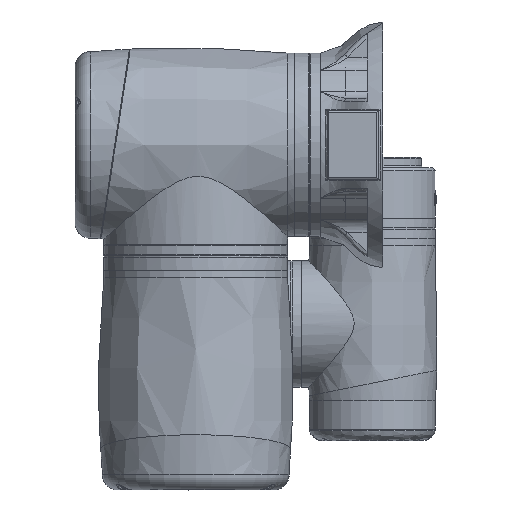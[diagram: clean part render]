
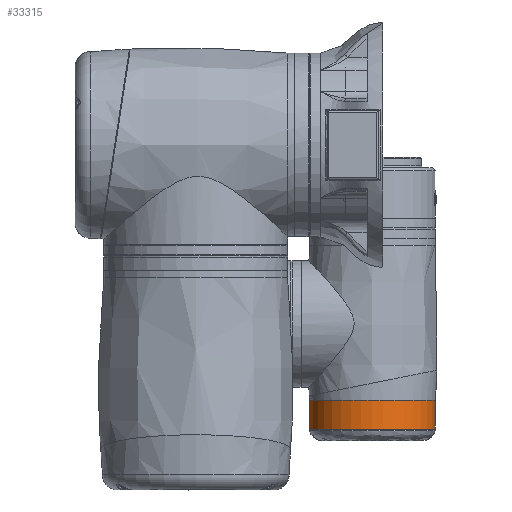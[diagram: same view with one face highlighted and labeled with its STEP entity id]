
A CAD part, left-side view. The second image highlights one B-rep face of the part: STEP entity #33315.
In plain terms, the highlighted cylindrical face has radius 40.5 mm (diameter 81 mm), a full revolution.
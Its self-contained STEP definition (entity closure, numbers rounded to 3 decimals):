
#3488 = CYLINDRICAL_SURFACE ( 'NONE', #27446, 40.5 ) ;
#3798 = EDGE_CURVE ( 'NONE', #79795, #79795, #89423, .T. ) ;
#8227 = DIRECTION ( 'NONE',  ( 0., -1., 0. ) ) ;
#12833 = VERTEX_POINT ( 'NONE', #90379 ) ;
#13155 = AXIS2_PLACEMENT_3D ( 'NONE', #37309, #37005, #87906 ) ;
#14070 = EDGE_LOOP ( 'NONE', ( #89702 ) ) ;
#27446 = AXIS2_PLACEMENT_3D ( 'NONE', #71415, #57199, #63188 ) ;
#33315 = ADVANCED_FACE ( 'NONE', ( #47658, #70233 ), #3488, .T. ) ;
#36178 = EDGE_LOOP ( 'NONE', ( #76250 ) ) ;
#37005 = DIRECTION ( 'NONE',  ( 0., -1., 0. ) ) ;
#37309 = CARTESIAN_POINT ( 'NONE',  ( 0., 135.5, 0. ) ) ;
#39434 = AXIS2_PLACEMENT_3D ( 'NONE', #44633, #8227, #52222 ) ;
#44633 = CARTESIAN_POINT ( 'NONE',  ( 0., 117., 0. ) ) ;
#47658 = FACE_OUTER_BOUND ( 'NONE', #14070, .T. ) ;
#52222 = DIRECTION ( 'NONE',  ( -1., 0., 0. ) ) ;
#57199 = DIRECTION ( 'NONE',  ( 0., -1., 0. ) ) ;
#62699 = EDGE_CURVE ( 'NONE', #12833, #12833, #76679, .T. ) ;
#63188 = DIRECTION ( 'NONE',  ( -1., 0., 0. ) ) ;
#65164 = CARTESIAN_POINT ( 'NONE',  ( 0., 135.5, 40.5 ) ) ;
#70233 = FACE_OUTER_BOUND ( 'NONE', #36178, .T. ) ;
#71415 = CARTESIAN_POINT ( 'NONE',  ( 0., 8.5, 0. ) ) ;
#76250 = ORIENTED_EDGE ( 'NONE', *, *, #62699, .F. ) ;
#76679 = CIRCLE ( 'NONE', #39434, 40.5 ) ;
#79795 = VERTEX_POINT ( 'NONE', #65164 ) ;
#87906 = DIRECTION ( 'NONE',  ( 0., 0., 1. ) ) ;
#89423 = CIRCLE ( 'NONE', #13155, 40.5 ) ;
#89702 = ORIENTED_EDGE ( 'NONE', *, *, #3798, .T. ) ;
#90379 = CARTESIAN_POINT ( 'NONE',  ( -40.5, 117., 0. ) ) ;
